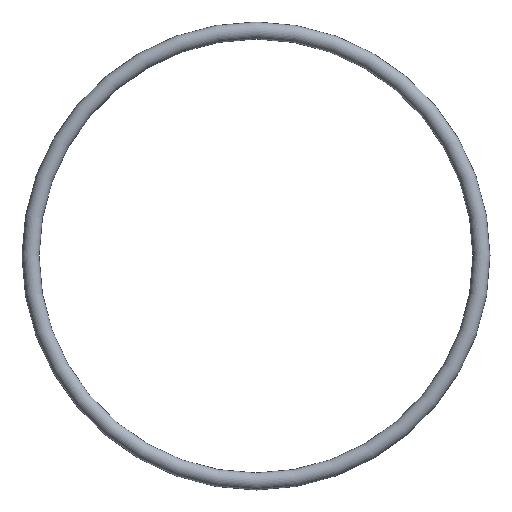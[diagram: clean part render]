
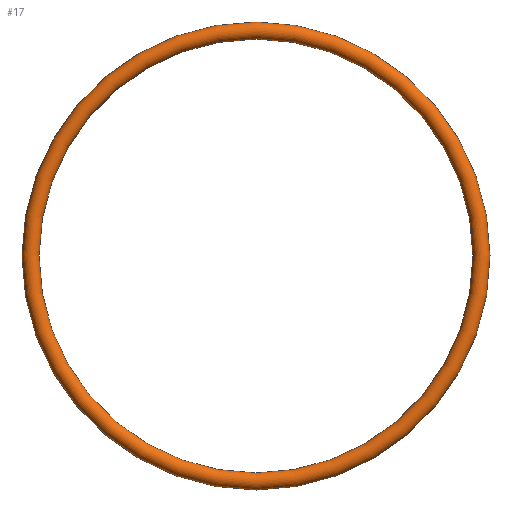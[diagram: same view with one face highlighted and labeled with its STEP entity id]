
A CAD part, left-side view. The second image highlights one B-rep face of the part: STEP entity #17.
In plain terms, the highlighted toroidal (fillet/blend) face has major radius 46.6 mm and minor radius 1.765 mm.
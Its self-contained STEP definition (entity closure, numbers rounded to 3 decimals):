
#17 = ADVANCED_FACE('',(#18),#31,.T.);
#18 = FACE_BOUND('',#19,.T.);
#19 = EDGE_LOOP('',(#20,#49,#71,#72));
#20 = ORIENTED_EDGE('',*,*,#21,.F.);
#21 = EDGE_CURVE('',#22,#22,#24,.T.);
#22 = VERTEX_POINT('',#23);
#23 = CARTESIAN_POINT('',(574.,0.,48.365));
#24 = SEAM_CURVE('',#25,(#30,#42),.PCURVE_S1.);
#25 = CIRCLE('',#26,48.365);
#26 = AXIS2_PLACEMENT_3D('',#27,#28,#29);
#27 = CARTESIAN_POINT('',(574.,0.,0.));
#28 = DIRECTION('',(1.,0.,0.));
#29 = DIRECTION('',(-0.,0.,1.));
#30 = PCURVE('',#31,#36);
#31 = TOROIDAL_SURFACE('',#32,46.6,1.765);
#32 = AXIS2_PLACEMENT_3D('',#33,#34,#35);
#33 = CARTESIAN_POINT('',(574.,0.,0.));
#34 = DIRECTION('',(1.,0.,0.));
#35 = DIRECTION('',(-0.,0.,1.));
#36 = DEFINITIONAL_REPRESENTATION('',(#37),#41);
#37 = LINE('',#38,#39);
#38 = CARTESIAN_POINT('',(0.,6.283));
#39 = VECTOR('',#40,1.);
#40 = DIRECTION('',(1.,0.));
#41 = ( GEOMETRIC_REPRESENTATION_CONTEXT(2) 
PARAMETRIC_REPRESENTATION_CONTEXT() REPRESENTATION_CONTEXT('2D SPACE',''
  ) );
#42 = PCURVE('',#31,#43);
#43 = DEFINITIONAL_REPRESENTATION('',(#44),#48);
#44 = LINE('',#45,#46);
#45 = CARTESIAN_POINT('',(0.,0.));
#46 = VECTOR('',#47,1.);
#47 = DIRECTION('',(1.,0.));
#48 = ( GEOMETRIC_REPRESENTATION_CONTEXT(2) 
PARAMETRIC_REPRESENTATION_CONTEXT() REPRESENTATION_CONTEXT('2D SPACE',''
  ) );
#49 = ORIENTED_EDGE('',*,*,#50,.F.);
#50 = EDGE_CURVE('',#22,#22,#51,.T.);
#51 = SEAM_CURVE('',#52,(#57,#64),.PCURVE_S1.);
#52 = CIRCLE('',#53,1.765);
#53 = AXIS2_PLACEMENT_3D('',#54,#55,#56);
#54 = CARTESIAN_POINT('',(574.,0.,46.6));
#55 = DIRECTION('',(0.,1.,0.));
#56 = DIRECTION('',(0.,0.,1.));
#57 = PCURVE('',#31,#58);
#58 = DEFINITIONAL_REPRESENTATION('',(#59),#63);
#59 = LINE('',#60,#61);
#60 = CARTESIAN_POINT('',(6.283,-0.));
#61 = VECTOR('',#62,1.);
#62 = DIRECTION('',(0.,1.));
#63 = ( GEOMETRIC_REPRESENTATION_CONTEXT(2) 
PARAMETRIC_REPRESENTATION_CONTEXT() REPRESENTATION_CONTEXT('2D SPACE',''
  ) );
#64 = PCURVE('',#31,#65);
#65 = DEFINITIONAL_REPRESENTATION('',(#66),#70);
#66 = LINE('',#67,#68);
#67 = CARTESIAN_POINT('',(0.,-0.));
#68 = VECTOR('',#69,1.);
#69 = DIRECTION('',(0.,1.));
#70 = ( GEOMETRIC_REPRESENTATION_CONTEXT(2) 
PARAMETRIC_REPRESENTATION_CONTEXT() REPRESENTATION_CONTEXT('2D SPACE',''
  ) );
#71 = ORIENTED_EDGE('',*,*,#21,.T.);
#72 = ORIENTED_EDGE('',*,*,#50,.T.);
